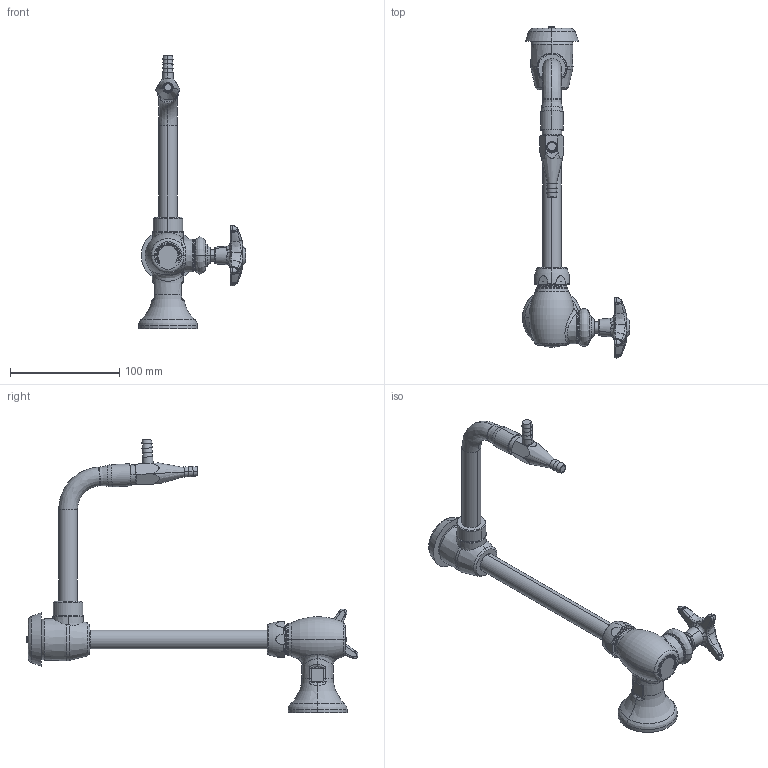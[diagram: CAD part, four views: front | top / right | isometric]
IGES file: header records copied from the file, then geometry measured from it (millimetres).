
Start section:  PTC IGES file: LWS4-A32-E.igs
Global section: file name: LWS4-A32-E.igs; native system: Creo Parametric by PTC Inc.; preprocessor: 2014500; author: usch_engrender; organization: Unknown; date: 20151207.111953; units: inch
Bounding box: 98.16 x 304.02 x 250.9 mm (x, y, z)
Volume: 266529.5 mm3; surface area: 77193.4 mm2
Topology: 1 solids, 4 shells, 795 faces, 1984 edges, 1249 vertices
Faces by surface type: bspline 399, revolution 238, extrusion 158
